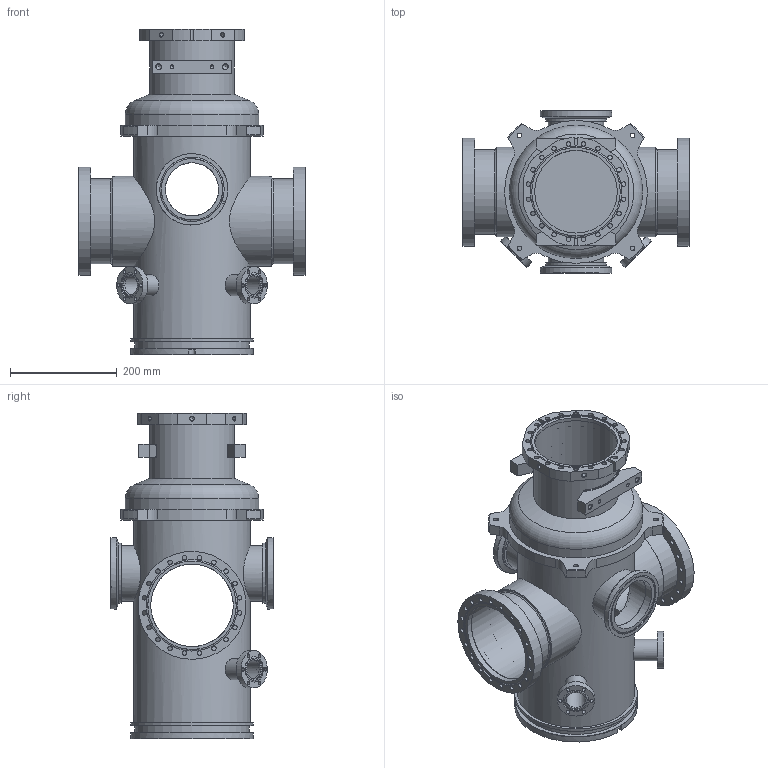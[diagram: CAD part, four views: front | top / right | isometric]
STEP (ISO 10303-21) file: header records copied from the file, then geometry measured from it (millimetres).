
FILE_DESCRIPTION(/* description */ (''),/* implementation_level */ '2;1');
FILE_NAME(/* name */ '00069871_AC_1-3232001_Chambre SEM LC.stp',/* time_stamp */ '2025-05-23T14:47:57+02:00',/* author */ (''),/* organization */ (''),/* preprocessor_version */ 'ST-DEVELOPER v20',/* originating_system */ 'SIEMENS PLM Software NX2312.8701',/* authorisation */ '');
FILE_SCHEMA (('AUTOMOTIVE_DESIGN { 1 0 10303 214 3 1 1 1 }'));
Length unit declared in the file: millimetre
Products named in the file (3): COM0003657_AA_1-Bride CF a souder DN160 AISI 304 VAT; COM0003712_AA_1-Bride Quick-CF DN100 - Tube Ø104 - VACOM_QCF100B1
04-316; 00069871_AC_1-3232001_Chambre SEM LC
Assembly tree (4 placements, depth 2):
  00069871_AC_1-3232001_Chambre SEM LC
    COM0003712_AA_1-Bride Quick-CF DN100 - Tube Ø104 - VACOM_QCF100B1
04-316  x2
    COM0003657_AA_1-Bride CF a souder DN160 AISI 304 VAT  x2
Bounding box: 424 x 304 x 610 mm (x, y, z)
Volume: 4586302.9 mm3; surface area: 1473252.7 mm2
Topology: 20 solids, 20 shells, 370 faces, 929 edges, 618 vertices
Faces by surface type: cylinder 202, plane 99, cone 57, torus 10, sphere 2
Full cylindrical faces by diameter (mm): 6.6 x12, 6.8 x4, 8 x7, 8.4 x60, 8.5 x4, 10 x4, 36.8 x4, 40 x6, 48.3 x2, 60 x1, 69.9 x2, 100 x4, 104 x6, 113 x2, 120.7 x2, 134 x2, 155 x6, 159 x5, 159.5 x2, 168.3 x4, 171.4 x2, 180 x1, 202.5 x2, 211 x1, 211.1 x2, 214 x1, 219.1 x2, 230 x2, 242 x2, 250 x2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
Entity records: 9997 total; most frequent: CARTESIAN_POINT 2645, DIRECTION 1530, ORIENTED_EDGE 1116, AXIS2_PLACEMENT_3D 684, EDGE_LOOP 678, FACE_BOUND 606, EDGE_CURVE 558, VERTEX_POINT 483
